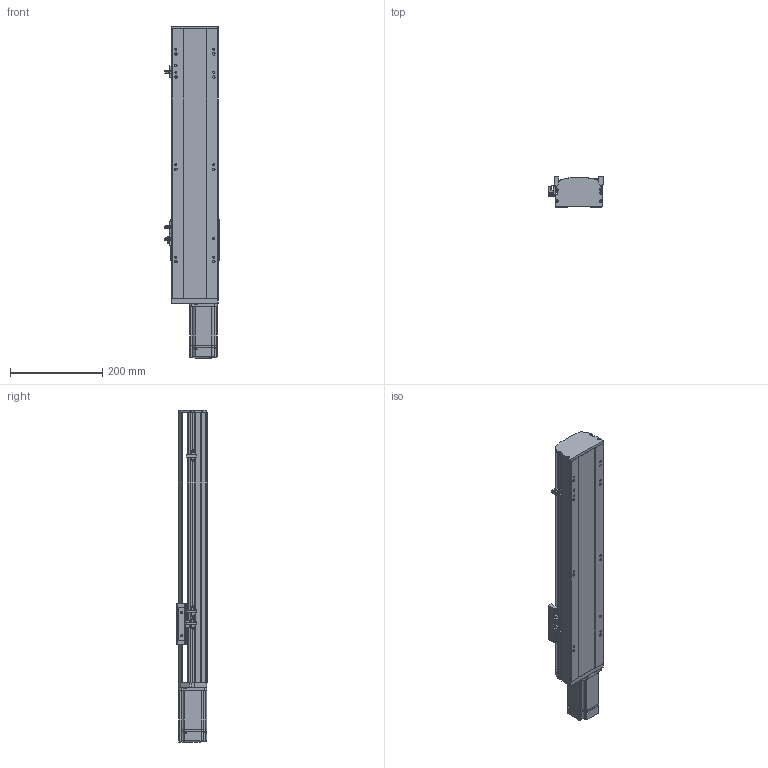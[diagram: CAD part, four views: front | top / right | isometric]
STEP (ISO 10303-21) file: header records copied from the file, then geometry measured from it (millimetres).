
FILE_DESCRIPTION (( 'STEP AP214' ), '1' );
FILE_NAME ('QTH10-350-BC-P20.STEP', '2021-11-13T14:19:26', ( '' ), ( '' ), 'SwSTEP 2.0', 'SolidWorks 2020', '' );
FILE_SCHEMA (( 'AUTOMOTIVE_DESIGN' ));
Length unit declared in the file: millimetre
Products named in the file (6): 葩璃 QTH10-BC-001 菁釱MZ-102A-01^QTH10-BC-P20; 葩璃 pm-t65-672^QTH10-BC-P20; QTH10-350-BC-P20; 葩璃 QTH10-BC-005 賑釱MZ-102A-03 ^QTH10-BC-P20; 葩璃 侂狟400W^QTH10-BC-P20; 葩璃 QTH10-BC-002 奻裔MZ-102A-02^QTH10-BC-P20
Assembly tree (7 placements, depth 2):
  QTH10-350-BC-P20
    葩璃 QTH10-BC-001 菁釱MZ-102A-01^QTH10-BC-P20
    葩璃 QTH10-BC-002 奻裔MZ-102A-02^QTH10-BC-P20
    葩璃 QTH10-BC-005 賑釱MZ-102A-03 ^QTH10-BC-P20
    葩璃 pm-t65-672^QTH10-BC-P20  x3
    葩璃 侂狟400W^QTH10-BC-P20
Bounding box: 117.2 x 66 x 719 mm (x, y, z)
Volume: 1784329.1 mm3; surface area: 427176.6 mm2
Topology: 11 solids, 11 shells, 1191 faces, 3210 edges, 2096 vertices
Faces by surface type: plane 714, cylinder 399, cone 60, bspline 18
Entity records: 31901 total; most frequent: CARTESIAN_POINT 5921, DIRECTION 5261, ORIENTED_EDGE 5076, EDGE_CURVE 2538, AXIS2_PLACEMENT_3D 1808, VERTEX_POINT 1672, VECTOR 1645, LINE 1645
